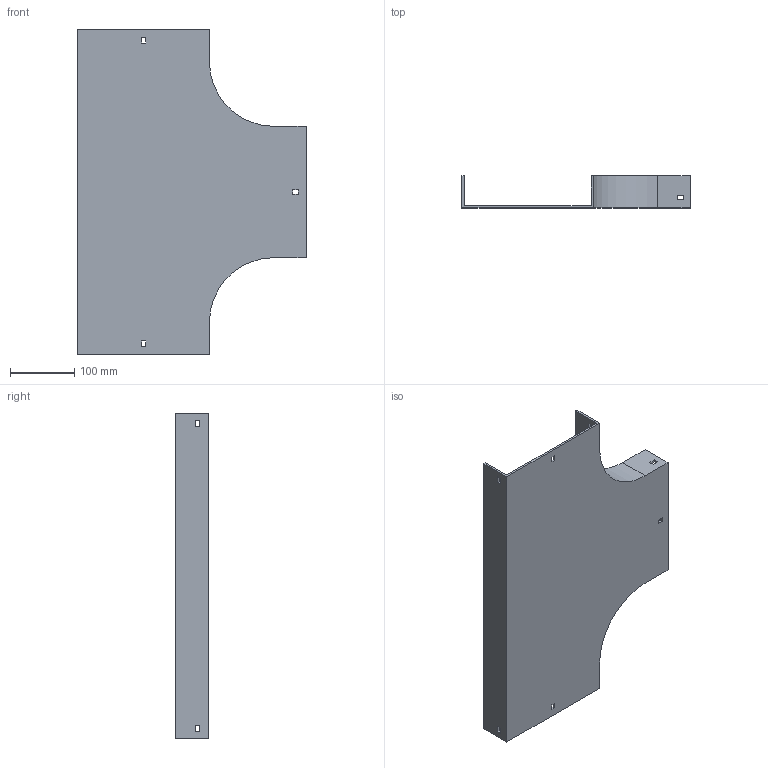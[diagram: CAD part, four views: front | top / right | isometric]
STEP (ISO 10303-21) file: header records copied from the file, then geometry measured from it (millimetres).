
FILE_DESCRIPTION (( 'STEP AP214' ), '1' );
FILE_NAME ('15B1B200.step', '2025-02-21T09:54:14', ( '' ), ( '' ), 'SwSTEP 2.0', 'SolidWorks 2023', '' );
FILE_SCHEMA (( 'AUTOMOTIVE_DESIGN' ));
Length unit declared in the file: millimetre
Products named in the file (1): 15B1B200
Bounding box: 354 x 50 x 504 mm (x, y, z)
Volume: 646494.1 mm3; surface area: 377146.7 mm2
Topology: 1 solids, 1 shells, 58 faces, 168 edges, 112 vertices
Faces by surface type: plane 54, cylinder 4
Entity records: 1939 total; most frequent: CARTESIAN_POINT 339, ORIENTED_EDGE 336, DIRECTION 294, EDGE_CURVE 168, VECTOR 160, LINE 160, VERTEX_POINT 112, EDGE_LOOP 76
